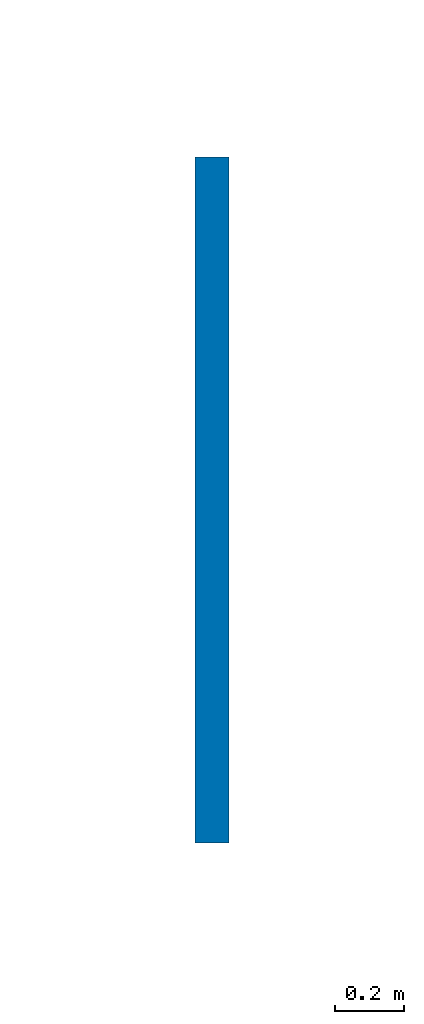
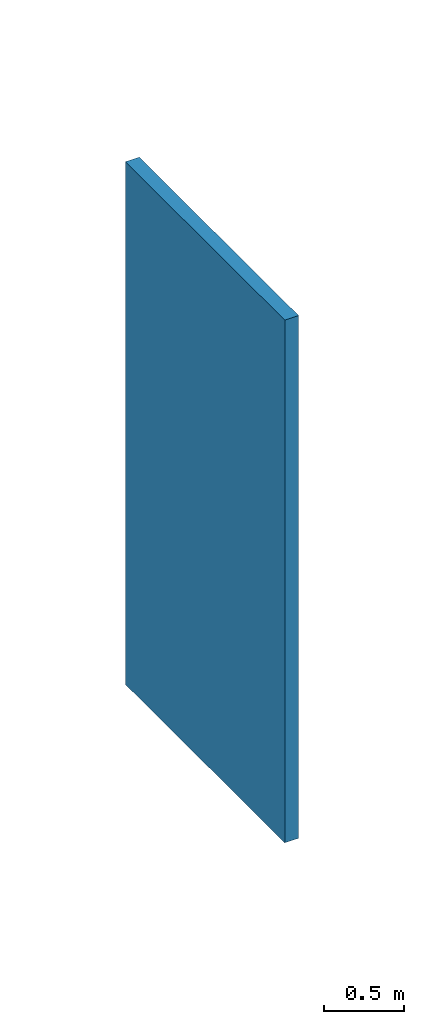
# One storey, part 117 of 164: 1 wall.
"""IFC2X3 building model written with IfcOpenShell, lengths in millimetres."""

from ifc_helpers import new_model, entity, si_unit, converted_unit, derived_unit, direction, frame, frame_2d, origin, place, context, subcontext, project, spatial, rectangle, extrude, material, layer, layer_set, layer_usage, type_object, element, save


model = new_model("IFC2X3")

# Units and contexts
model_context = context("Model", 3, precision=0.01, world=origin(), true_north=direction((6.12303176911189e-17, 1.0)))
body_context = subcontext(model_context, "Body", "Model", "MODEL_VIEW")
ifc_project = project(units=[si_unit("LENGTHUNIT", "METRE", prefix="MILLI"), si_unit("AREAUNIT", "SQUARE_METRE"), si_unit("VOLUMEUNIT", "CUBIC_METRE"), converted_unit("PLANEANGLEUNIT", "DEGREE", entity("IfcRatioMeasure", 0.0174532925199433), si_unit("PLANEANGLEUNIT", "RADIAN"), dimensions=[0, 0, 0, 0, 0, 0, 0]), si_unit("MASSUNIT", "GRAM", prefix="KILO"), derived_unit("MASSDENSITYUNIT", [(si_unit("MASSUNIT", "GRAM", prefix="KILO"), 1), (si_unit("LENGTHUNIT", "METRE"), -3)]), derived_unit("MOMENTOFINERTIAUNIT", [(si_unit("LENGTHUNIT", "METRE"), 4)]), si_unit("TIMEUNIT", "SECOND"), si_unit("FREQUENCYUNIT", "HERTZ"), si_unit("THERMODYNAMICTEMPERATUREUNIT", "DEGREE_CELSIUS"), derived_unit("THERMALTRANSMITTANCEUNIT", [(si_unit("MASSUNIT", "GRAM", prefix="KILO"), 1), (si_unit("THERMODYNAMICTEMPERATUREUNIT", "KELVIN"), -1), (si_unit("TIMEUNIT", "SECOND"), -3)]), derived_unit("VOLUMETRICFLOWRATEUNIT", [(si_unit("LENGTHUNIT", "METRE"), 3), (si_unit("TIMEUNIT", "SECOND"), -1)]), si_unit("ELECTRICCURRENTUNIT", "AMPERE"), si_unit("ELECTRICVOLTAGEUNIT", "VOLT"), si_unit("POWERUNIT", "WATT"), si_unit("FORCEUNIT", "NEWTON", prefix="KILO"), si_unit("ILLUMINANCEUNIT", "LUX"), si_unit("LUMINOUSFLUXUNIT", "LUMEN"), si_unit("LUMINOUSINTENSITYUNIT", "CANDELA"), derived_unit("USERDEFINED", [(si_unit("MASSUNIT", "GRAM", prefix="KILO"), -1), (si_unit("LENGTHUNIT", "METRE"), -2), (si_unit("TIMEUNIT", "SECOND"), 3), (si_unit("LUMINOUSFLUXUNIT", "LUMEN"), 1)]), derived_unit("LINEARVELOCITYUNIT", [(si_unit("LENGTHUNIT", "METRE"), 1), (si_unit("TIMEUNIT", "SECOND"), -1)]), si_unit("PRESSUREUNIT", "PASCAL"), derived_unit("USERDEFINED", [(si_unit("LENGTHUNIT", "METRE"), -2), (si_unit("MASSUNIT", "GRAM", prefix="KILO"), 1), (si_unit("TIMEUNIT", "SECOND"), -2)]), derived_unit("LINEARFORCEUNIT", [(si_unit("MASSUNIT", "GRAM", prefix="KILO"), 1), (si_unit("LENGTHUNIT", "METRE"), 1), (si_unit("TIMEUNIT", "SECOND"), -2), (si_unit("LENGTHUNIT", "METRE"), -1)]), derived_unit("PLANARFORCEUNIT", [(si_unit("MASSUNIT", "GRAM", prefix="KILO"), 1), (si_unit("LENGTHUNIT", "METRE"), 1), (si_unit("TIMEUNIT", "SECOND"), -2), (si_unit("LENGTHUNIT", "METRE"), -2)])], contexts=[model_context])

# Site, building, storey
site_placement = place(None, origin())
site = spatial("IfcSite", under=ifc_project, at=site_placement, Name="Default", CompositionType="ELEMENT")
building_placement = place(site_placement, origin())
building = spatial("IfcBuilding", under=site, at=building_placement, CompositionType="ELEMENT")
storey_placement = place(building_placement, origin())
storey = spatial("IfcBuildingStorey", under=building, at=storey_placement, Name="Level 1", CompositionType="ELEMENT", Elevation=0.0)

# Wall
ifc_material = material(Name="Default Wall")
ifc_layer = layer(ifc_material, 100.0)
ifc_layer_set = layer_set([ifc_layer], Name="Basic Wall:Generic - 100mm")
ifc_layer_usage = layer_usage(ifc_layer_set, "AXIS2", "NEGATIVE", 50.0)
wall_type = type_object("IfcWallType", Name="Basic Wall:Generic - 100mm", PredefinedType="STANDARD", material=ifc_layer_set)
wall_placement = place(storey_placement, frame((1000050.0, 1501000.0, 0.0), z_axis=(0.0, 0.0, 1.0), x_axis=(0.0, -1.0, 0.0)))
element("IfcWallStandardCase", 1, at=wall_placement, inside=storey, type_object=wall_type, material=ifc_layer_usage, Name="Basic Wall:Generic - 100mm", ObjectType="Basic Wall:Generic - 100mm", context=body_context, shape_type="SweptSolid", body=[
    extrude(rectangle(XDim=1999.99999999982, YDim=100.000000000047, at=frame_2d((999.999999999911, 1.60582658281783e-12), x_axis=(-1.0, 0.0))), origin(), (0.0, 0.0, 1.0), 4000.0),
])

save(model, "model.ifc")
